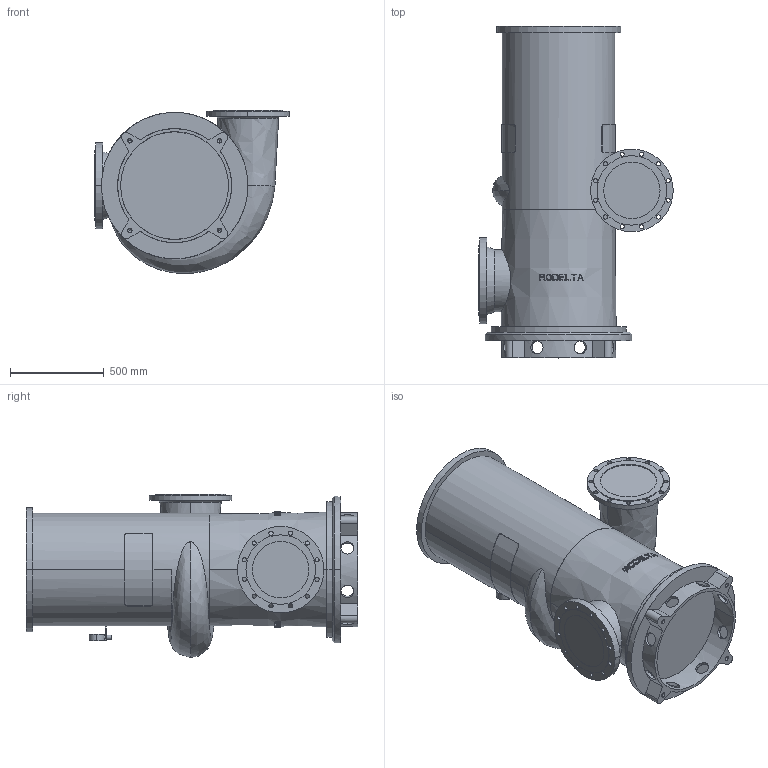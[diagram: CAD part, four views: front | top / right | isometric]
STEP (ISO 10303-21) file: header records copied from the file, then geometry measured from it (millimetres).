
FILE_DESCRIPTION((''),'2;1');
FILE_NAME('12-520_ASM','2024-08-06T',('Lyritlocal'),(''),'PRO/ENGINEER BY PARAMETRIC TECHNOLOGY CORPORATION, 2016360','PRO/ENGINEER BY PARAMETRIC TECHNOLOGY CORPORATION, 2016360','');
FILE_SCHEMA(('CONFIG_CONTROL_DESIGN'));
Length unit declared in the file: millimetre
Products named in the file (3): 12-520; 12-520_VOET; 12-520_ASM
Assembly tree (2 placements, depth 2):
  12-520_ASM
    12-520
    12-520_VOET
Bounding box: 1035 x 1766.5 x 868.17 mm (x, y, z)
Volume: 566586530 mm3; surface area: 6652634.1 mm2
Topology: 2 solids, 6 shells, 503 faces, 1366 edges, 900 vertices
Faces by surface type: plane 323, cylinder 138, cone 36, bspline 6
Entity records: 17785 total; most frequent: CARTESIAN_POINT 5428, ORIENTED_EDGE 2700, DIRECTION 2313, EDGE_CURVE 1358, VERTEX_POINT 900, AXIS2_PLACEMENT_3D 896, EDGE_LOOP 608, VECTOR 521
